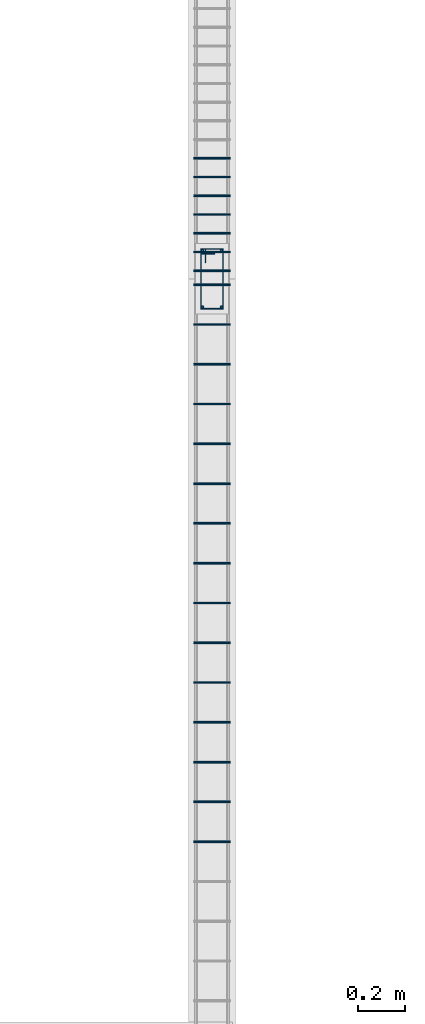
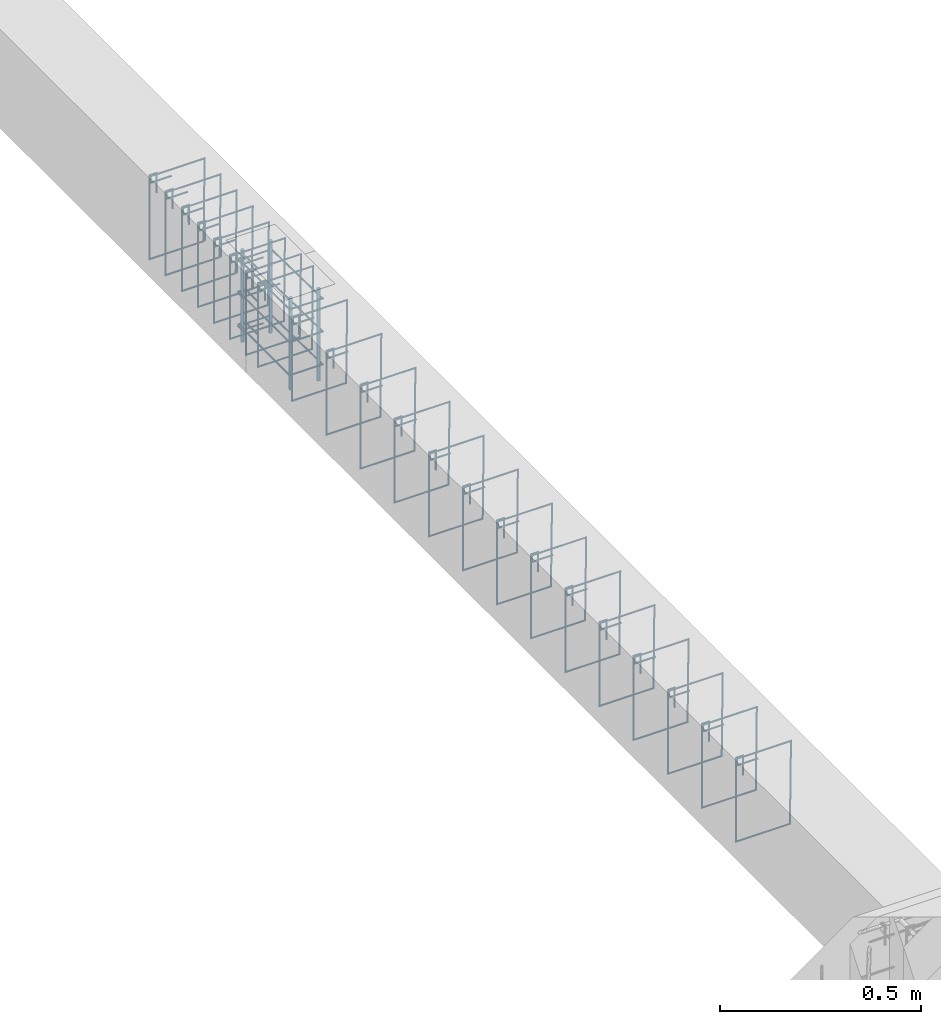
# One storey, part 61 of 150: 29 reinforcing bars.
"""IFC4 building model written with IfcOpenShell, lengths in centimetres."""

from ifc_helpers import new_model, entity, si_unit, derived_unit, frame, origin_with_axes, place, context, project, spatial, source, transform, mapped, element, save


model = new_model("IFC4")

# Units and contexts
model_context = context("Model", 3, precision=1e-05, world=origin_with_axes(), identifier="Body")
ifc_project = project(units=[si_unit("LENGTHUNIT", "METRE", prefix="CENTI"), si_unit("VOLUMEUNIT", "CUBIC_METRE"), si_unit("AREAUNIT", "SQUARE_METRE"), si_unit("POWERUNIT", "WATT"), si_unit("LUMINOUSFLUXUNIT", "LUMEN"), si_unit("ELECTRICCURRENTUNIT", "AMPERE"), si_unit("PRESSUREUNIT", "PASCAL", prefix="KILO"), si_unit("MASSUNIT", "GRAM", prefix="KILO"), si_unit("PLANEANGLEUNIT", "RADIAN"), derived_unit("VOLUMETRICFLOWRATEUNIT", [(si_unit("LENGTHUNIT", "METRE"), 3), (si_unit("TIMEUNIT", "SECOND"), -1)])], contexts=[model_context])

# Site, building, storey
site_placement = place(None, frame((-4000.0, 0.0, 0.0), z_axis=(0.0, 0.0, 1.0), x_axis=(1.0, 0.0, 0.0)))
site = spatial("IfcSite", under=ifc_project, at=site_placement, Name="PADRÃO")
building_placement = place(site_placement, frame((0.0, 0.0, -14.0)))
building = spatial("IfcBuilding", under=site, at=building_placement, Name="CRECHE PRÉ-ESCOLA TIPO 2")
placement = place(building_placement, origin_with_axes())
storey_placement = place(placement, frame((0.0, 0.0, 30.0), z_axis=(0.0, 0.0, 1.0), x_axis=(1.0, 0.0, 0.0)))
storey = spatial("IfcBuildingStorey", under=building, at=storey_placement, Name="VIGA BALDRAME", CompositionType="ELEMENT", Elevation=16.0)

# Reinforcing bars
shared_shape_1 = source(origin_with_axes(), model_context, "Body", "AdvancedSweptSolid", [
    entity("IfcSweptDiskSolid", entity("IfcCompositeCurve", [entity("IfcCompositeCurveSegment", "CONTINUOUS", True, entity("IfcPolyline", [entity("IfcCartesianPoint", [4.25, 21.75, 0.0]), entity("IfcCartesianPoint", [4.25, 27.75, 0.0])])), entity("IfcCompositeCurveSegment", "CONTINUOUS", True, entity("IfcPolyline", [entity("IfcCartesianPoint", [4.25, 27.75, 0.0]), entity("IfcCartesianPoint", [2.25, 27.75, 0.0])])), entity("IfcCompositeCurveSegment", "CONTINUOUS", True, entity("IfcPolyline", [entity("IfcCartesianPoint", [2.25, 27.75, 0.0]), entity("IfcCartesianPoint", [2.25, 2.25, 0.0])])), entity("IfcCompositeCurveSegment", "CONTINUOUS", True, entity("IfcPolyline", [entity("IfcCartesianPoint", [2.25, 2.25, 0.0]), entity("IfcCartesianPoint", [11.75, 2.25, 0.0])])), entity("IfcCompositeCurveSegment", "CONTINUOUS", True, entity("IfcPolyline", [entity("IfcCartesianPoint", [11.75, 2.25, 0.0]), entity("IfcCartesianPoint", [11.75, 27.75, -0.5])])), entity("IfcCompositeCurveSegment", "CONTINUOUS", True, entity("IfcPolyline", [entity("IfcCartesianPoint", [11.75, 27.75, -0.5]), entity("IfcCartesianPoint", [2.25, 27.75, -0.5])])), entity("IfcCompositeCurveSegment", "CONTINUOUS", True, entity("IfcPolyline", [entity("IfcCartesianPoint", [2.25, 27.75, -0.5]), entity("IfcCartesianPoint", [2.25, 25.75, -0.5])])), entity("IfcCompositeCurveSegment", "CONTINUOUS", True, entity("IfcPolyline", [entity("IfcCartesianPoint", [2.25, 25.75, -0.5]), entity("IfcCartesianPoint", [8.25, 25.75, -0.5])]))], False), 0.25),
])
for number, where, z_axis, x_axis, name in (
    (1, (1109.0, 2235.0, -5.0), (0.0, 0.0, 1.0), (1.0, 0.0, 0.0), "P79 - Estribo"),
    (2, (1109.0, 2235.0, -15.0), (0.0, 0.0, 1.0), (1.0, 0.0, 0.0), "P79 - Estribo"),
    (3, (1109.0, 2235.0, -25.0), (0.0, 0.0, 1.0), (1.0, 0.0, 0.0), "P79 - Estribo"),
):
    element("IfcReinforcingBar", number, at=place(storey_placement, frame(where, z_axis=z_axis, x_axis=x_axis)), inside=storey, Name=name, BarLength=0.0, CrossSectionArea=1.9634954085e-05, NominalDiameter=0.5, PredefinedType="MAIN", context=model_context, shape_type="MappedRepresentation", body=[
        mapped(shared_shape_1, transform((0.0, 0.0, 0.0), scale=1.0)),
    ])
shared_shape_2 = source(origin_with_axes(), model_context, "Body", "AdvancedSweptSolid", [
    entity("IfcSweptDiskSolid", entity("IfcCompositeCurve", [entity("IfcCompositeCurveSegment", "CONTINUOUS", True, entity("IfcPolyline", [entity("IfcCartesianPoint", [2.0, -6.0, 0.0]), entity("IfcCartesianPoint", [2.0, 0.0, 0.0])])), entity("IfcCompositeCurveSegment", "CONTINUOUS", True, entity("IfcPolyline", [entity("IfcCartesianPoint", [2.0, 0.0, 0.0]), entity("IfcCartesianPoint", [0.0, 0.0, 0.0])])), entity("IfcCompositeCurveSegment", "CONTINUOUS", True, entity("IfcPolyline", [entity("IfcCartesianPoint", [0.0, 0.0, 0.0]), entity("IfcCartesianPoint", [0.0, -25.5, 0.0])])), entity("IfcCompositeCurveSegment", "CONTINUOUS", True, entity("IfcPolyline", [entity("IfcCartesianPoint", [0.0, -25.5, 0.0]), entity("IfcCartesianPoint", [15.5, -25.5, 0.0])])), entity("IfcCompositeCurveSegment", "CONTINUOUS", True, entity("IfcPolyline", [entity("IfcCartesianPoint", [15.5, -25.5, 0.0]), entity("IfcCartesianPoint", [15.5, 0.0, 0.5])])), entity("IfcCompositeCurveSegment", "CONTINUOUS", True, entity("IfcPolyline", [entity("IfcCartesianPoint", [15.5, 0.0, 0.5]), entity("IfcCartesianPoint", [0.0, 0.0, 0.5])])), entity("IfcCompositeCurveSegment", "CONTINUOUS", True, entity("IfcPolyline", [entity("IfcCartesianPoint", [0.0, 0.0, 0.5]), entity("IfcCartesianPoint", [0.0, -2.0, 0.5])])), entity("IfcCompositeCurveSegment", "CONTINUOUS", True, entity("IfcPolyline", [entity("IfcCartesianPoint", [0.0, -2.0, 0.5]), entity("IfcCartesianPoint", [6.0, -2.0, 0.5])]))], False), 0.25),
])
for number, where, z_axis, x_axis, name in (
    (4, (1108.25, 2026.75, -2.25), (0.0, -1.0, 0.0), (1.0, 0.0, 0.0), "V183 - Estribo"),
    (5, (1108.25, 2009.75, -2.25), (0.0, -1.0, 0.0), (1.0, 0.0, 0.0), "V183 - Estribo"),
    (6, (1108.25, 2247.75, -2.25), (0.0, -1.0, 0.0), (1.0, 0.0, 0.0), "V183 - Estribo"),
    (7, (1108.25, 2230.75, -2.25), (0.0, -1.0, 0.0), (1.0, 0.0, 0.0), "V183 - Estribo"),
    (8, (1108.25, 2213.75, -2.25), (0.0, -1.0, 0.0), (1.0, 0.0, 0.0), "V183 - Estribo"),
    (9, (1108.25, 2196.75, -2.25), (0.0, -1.0, 0.0), (1.0, 0.0, 0.0), "V183 - Estribo"),
    (10, (1108.25, 2179.75, -2.25), (0.0, -1.0, 0.0), (1.0, 0.0, 0.0), "V183 - Estribo"),
    (11, (1108.25, 2162.75, -2.25), (0.0, -1.0, 0.0), (1.0, 0.0, 0.0), "V183 - Estribo"),
    (12, (1108.25, 2145.75, -2.25), (0.0, -1.0, 0.0), (1.0, 0.0, 0.0), "V183 - Estribo"),
    (13, (1108.25, 2128.75, -2.25), (0.0, -1.0, 0.0), (1.0, 0.0, 0.0), "V183 - Estribo"),
    (14, (1108.25, 2111.75, -2.25), (0.0, -1.0, 0.0), (1.0, 0.0, 0.0), "V183 - Estribo"),
    (15, (1108.25, 2094.75, -2.25), (0.0, -1.0, 0.0), (1.0, 0.0, 0.0), "V183 - Estribo"),
    (16, (1108.25, 2077.75, -2.25), (0.0, -1.0, 0.0), (1.0, 0.0, 0.0), "V183 - Estribo"),
    (17, (1108.25, 2060.75, -2.25), (0.0, -1.0, 0.0), (1.0, 0.0, 0.0), "V183 - Estribo"),
    (18, (1108.25, 2043.75, -2.25), (0.0, -1.0, 0.0), (1.0, 0.0, 0.0), "V183 - Estribo"),
):
    element("IfcReinforcingBar", number, at=place(storey_placement, frame(where, z_axis=z_axis, x_axis=x_axis)), inside=storey, Name=name, BarLength=0.0, CrossSectionArea=1.9634954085e-05, NominalDiameter=0.5, PredefinedType="MAIN", context=model_context, shape_type="MappedRepresentation", body=[
        mapped(shared_shape_2, transform((0.0, 0.0, 0.0), scale=1.0)),
    ])
shared_shape_3 = source(origin_with_axes(), model_context, "Body", "AdvancedSweptSolid", [
    entity("IfcSweptDiskSolid", entity("IfcCompositeCurve", [entity("IfcCompositeCurveSegment", "CONTINUOUS", True, entity("IfcPolyline", [entity("IfcCartesianPoint", [2.0, -6.0, 0.0]), entity("IfcCartesianPoint", [2.0, 0.0, 0.0])])), entity("IfcCompositeCurveSegment", "CONTINUOUS", True, entity("IfcPolyline", [entity("IfcCartesianPoint", [2.0, 0.0, 0.0]), entity("IfcCartesianPoint", [0.0, 0.0, 0.0])])), entity("IfcCompositeCurveSegment", "CONTINUOUS", True, entity("IfcPolyline", [entity("IfcCartesianPoint", [0.0, 0.0, 0.0]), entity("IfcCartesianPoint", [0.0, -25.5, 0.0])])), entity("IfcCompositeCurveSegment", "CONTINUOUS", True, entity("IfcPolyline", [entity("IfcCartesianPoint", [0.0, -25.5, 0.0]), entity("IfcCartesianPoint", [15.5, -25.5, 0.0])])), entity("IfcCompositeCurveSegment", "CONTINUOUS", True, entity("IfcPolyline", [entity("IfcCartesianPoint", [15.5, -25.5, 0.0]), entity("IfcCartesianPoint", [15.5, 0.0, 0.5])])), entity("IfcCompositeCurveSegment", "CONTINUOUS", True, entity("IfcPolyline", [entity("IfcCartesianPoint", [15.5, 0.0, 0.5]), entity("IfcCartesianPoint", [0.0, 0.0, 0.5])])), entity("IfcCompositeCurveSegment", "CONTINUOUS", True, entity("IfcPolyline", [entity("IfcCartesianPoint", [0.0, 0.0, 0.5]), entity("IfcCartesianPoint", [0.0, -2.0, 0.5])])), entity("IfcCompositeCurveSegment", "CONTINUOUS", True, entity("IfcPolyline", [entity("IfcCartesianPoint", [0.0, -2.0, 0.5]), entity("IfcCartesianPoint", [6.0, -2.0, 0.5])]))], False), 0.25),
])
for number, where, z_axis, x_axis, name in (
    (19, (1108.25, 2293.75, -2.25), (0.0, -1.0, 0.0), (1.0, 0.0, 0.0), "V183 - Estribo"),
    (20, (1108.25, 2301.75, -2.25), (0.0, -1.0, 0.0), (1.0, 0.0, 0.0), "V183 - Estribo"),
    (21, (1108.25, 2285.75, -2.25), (0.0, -1.0, 0.0), (1.0, 0.0, 0.0), "V183 - Estribo"),
    (22, (1108.25, 2277.75, -2.25), (0.0, -1.0, 0.0), (1.0, 0.0, 0.0), "V183 - Estribo"),
    (23, (1108.25, 2269.75, -2.25), (0.0, -1.0, 0.0), (1.0, 0.0, 0.0), "V183 - Estribo"),
    (24, (1108.25, 2261.75, -2.25), (0.0, -1.0, 0.0), (1.0, 0.0, 0.0), "V183 - Estribo"),
    (25, (1108.25, 2253.75, -2.25), (0.0, -1.0, 0.0), (1.0, 0.0, 0.0), "V183 - Estribo"),
):
    element("IfcReinforcingBar", number, at=place(storey_placement, frame(where, z_axis=z_axis, x_axis=x_axis)), inside=storey, Name=name, BarLength=0.0, CrossSectionArea=1.9634954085e-05, NominalDiameter=0.5, PredefinedType="MAIN", context=model_context, shape_type="MappedRepresentation", body=[
        mapped(shared_shape_3, transform((0.0, 0.0, 0.0), scale=1.0)),
    ])
for number, where, z_axis, x_axis, name in (
    (26, (1120.0, 2238.0, -2.0), (0.0, 0.0, 1.0), (1.0, 0.0, 0.0), "P79 - Longitudinal"),
    (27, (1112.0, 2238.0, -2.0), (0.0, 0.0, 1.0), (1.0, 0.0, 0.0), "P79 - Longitudinal"),
    (28, (1120.0, 2262.0, -2.0), (0.0, 0.0, 1.0), (1.0, 0.0, 0.0), "P79 - Longitudinal"),
    (29, (1112.0, 2262.0, -2.0), (0.0, 0.0, 1.0), (1.0, 0.0, 0.0), "P79 - Longitudinal"),
):
    element("IfcReinforcingBar", number, at=place(storey_placement, frame(where, z_axis=z_axis, x_axis=x_axis)), inside=storey, Name=name, BarLength=0.0, CrossSectionArea=7.853981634e-05, NominalDiameter=1.0, PredefinedType="MAIN", context=model_context, shape_type="AdvancedSweptSolid", body=[
        entity("IfcSweptDiskSolid", entity("IfcCompositeCurve", [entity("IfcCompositeCurveSegment", "CONTINUOUS", True, entity("IfcPolyline", [entity("IfcCartesianPoint", [0.0, 0.0, -28.0]), entity("IfcCartesianPoint", [0.0, 0.0, 0.0])]))], False), 0.5),
    ])

save(model, "model.ifc")
